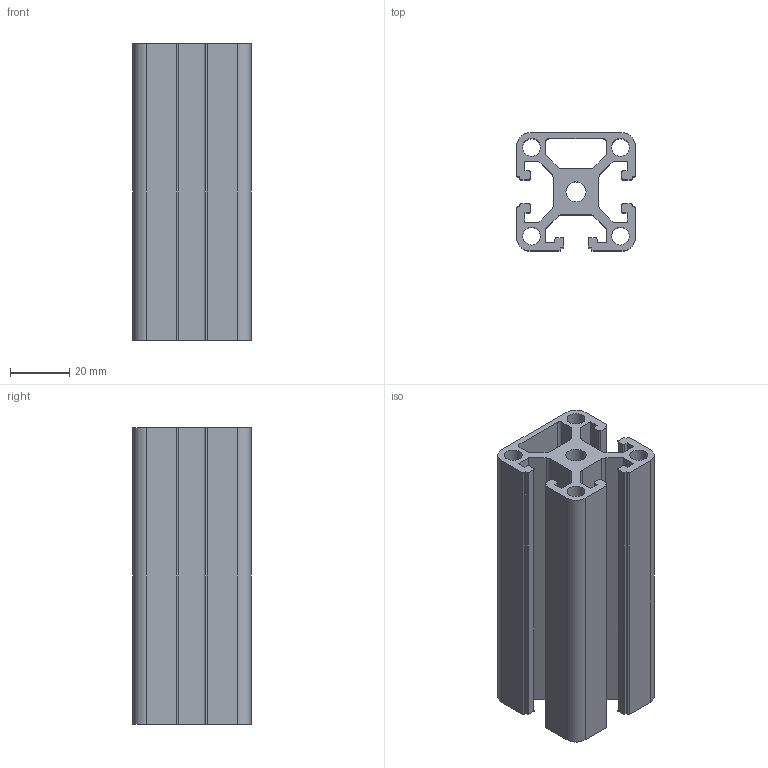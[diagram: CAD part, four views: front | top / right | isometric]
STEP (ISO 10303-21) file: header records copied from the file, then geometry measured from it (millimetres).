
FILE_DESCRIPTION((''),'2;1');
FILE_NAME('E:\catalogue and flyer\Profile catalogue 2015\profile-step file,31MAr16\PS4040-8, 1N.stp','2016-03-31T14:00:14',('h029'),(''),'Autodesk Inventor 11','Autodesk Inventor 11','');
FILE_SCHEMA(('AUTOMOTIVE_DESIGN { 1 0 10303 214 1 1 1 1 }'));
Length unit declared in the file: millimetre
Products named in the file (1): ps4040-8, 1N
Bounding box: 40 x 40 x 100 mm (x, y, z)
Volume: 68453.1 mm3; surface area: 46530 mm2
Topology: 1 solids, 1 shells, 109 faces, 322 edges, 215 vertices
Faces by surface type: plane 66, cylinder 42, bspline 1
Full cylindrical faces by diameter (mm): 6 x4
Entity records: 3676 total; most frequent: CARTESIAN_POINT 657, ORIENTED_EDGE 632, DIRECTION 620, EDGE_CURVE 316, VECTOR 230, LINE 230, VERTEX_POINT 214, AXIS2_PLACEMENT_3D 195
